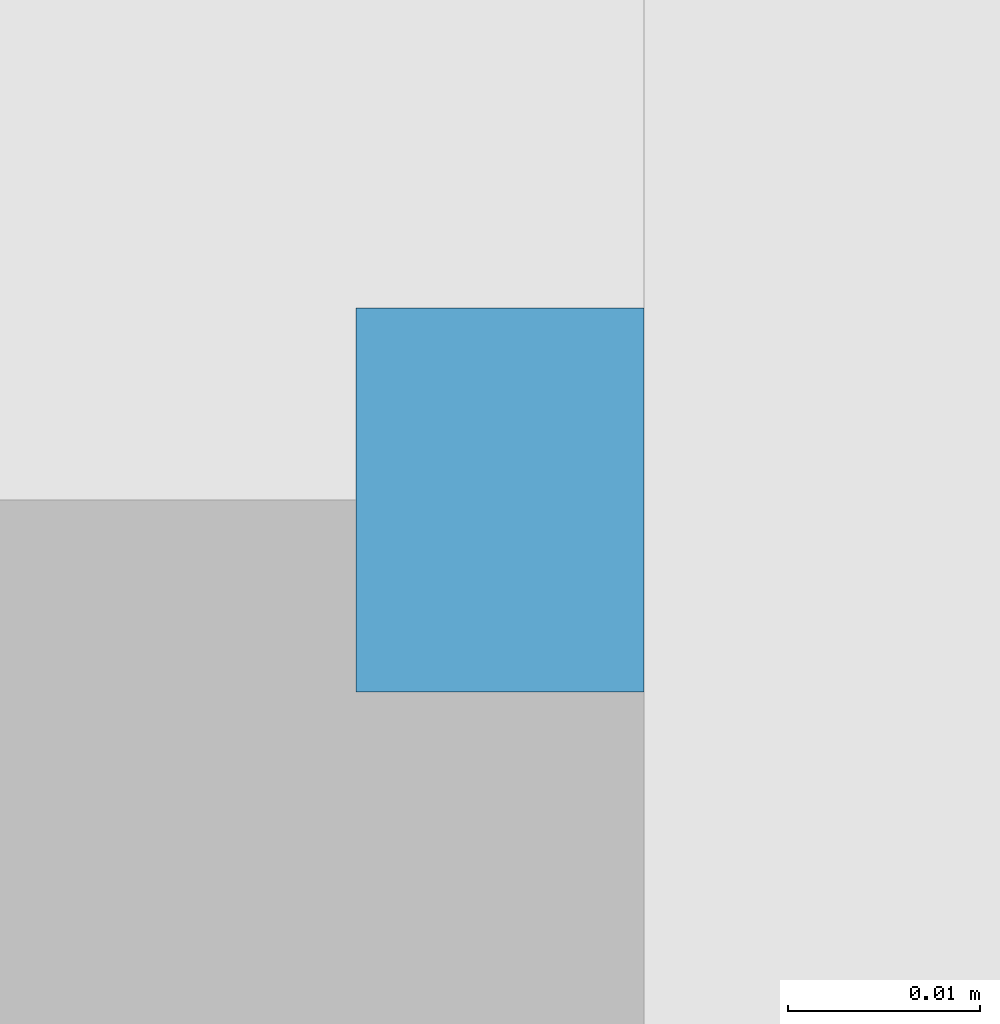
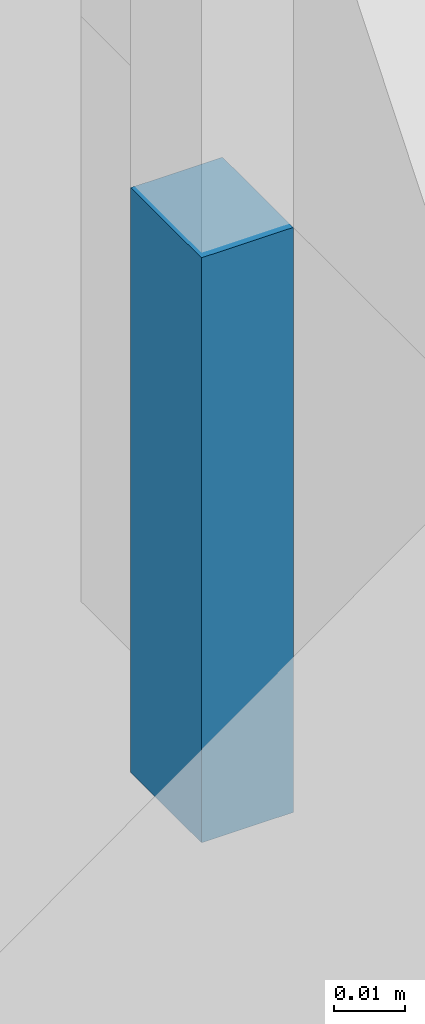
# One storey, part 51 of 117: 1 plate, 1 element without a shape of its own.
"""IFC4 building model written with IfcOpenShell, lengths in metres."""

import ifcopenshell
import ifcopenshell.guid

model = None  # the IFC model being written
_history = None  # IfcOwnerHistory: only IFC2X3 demands one
_inside = {}  # id of a spatial element -> (the spatial element, [elements in it])
_under = {}  # id of a project, library or spatial element -> (it, [spatial elements below it])
_declared = {}  # id of a project -> (the project, [libraries it declares])
_typed = {}  # id of a type object -> (the type object, [elements of that type])
_made_of = {}  # id of a material, layer set ... -> (it, [elements and type objects made of it])


def new_model(schema):
    """Start an empty IFC model of exactly this schema.

    Asked for "IFC4X3", IfcOpenShell would pick the latest addendum, in which some entities
    have other attributes; the version numbers below select the first issue.
    IFC2X3 requires an IfcOwnerHistory on every rooted entity: one is made here for all.
    """
    global model, _history
    if schema == "IFC4X3":
        model = ifcopenshell.file(schema_version=(4, 3, 0, 0))
    else:
        model = ifcopenshell.file(schema=schema)
    _inside.clear()
    _under.clear()
    _declared.clear()
    _typed.clear()
    _made_of.clear()
    _history = None
    if model.schema == "IFC2X3":
        org = make("IfcOrganization", Name="unknown")
        user = make(
            "IfcPersonAndOrganization",
            ThePerson=make("IfcPerson", FamilyName="unknown"),
            TheOrganization=org,
        )
        app = make(
            "IfcApplication",
            ApplicationDeveloper=org,
            Version="unknown",
            ApplicationFullName="unknown",
            ApplicationIdentifier="unknown",
        )
        _history = make(
            "IfcOwnerHistory",
            OwningUser=user,
            OwningApplication=app,
            ChangeAction="ADDED",
            CreationDate=0,
        )
    return model


def make(cls, **values):
    """One entity of the class cls with the attributes given. An attribute that is None is left unset."""
    return model.create_entity(
        cls, **{name: value for name, value in values.items() if value is not None}
    )


def entity(cls, *values):
    """Any entity or typed value of the class cls, its attributes in the order of the schema. None: left unset."""
    e = model.create_entity(cls)
    for i, value in enumerate(values):
        if value is not None:
            e[i] = value
    return e


def rooted(cls, **values):
    """An entity with a GlobalId (a new one), such as an element, a storey or a relation."""
    return make(cls, GlobalId=ifcopenshell.guid.new(), OwnerHistory=_history, **values)


def si_unit(unit_type, name, prefix=None):
    """IfcSIUnit, for example si_unit("LENGTHUNIT", "METRE", prefix="MILLI")."""
    return make("IfcSIUnit", UnitType=unit_type, Prefix=prefix, Name=name)


def converted_unit(unit_type, name, factor, base, dimensions=None, offset=None):
    """IfcConversionBasedUnit, such as the inch: factor (a typed value) times the base unit."""
    return make(
        "IfcConversionBasedUnit"
        if offset is None
        else "IfcConversionBasedUnitWithOffset",
        ConversionOffset=offset,
        Dimensions=None
        if dimensions is None
        else entity("IfcDimensionalExponents", *dimensions),
        UnitType=unit_type,
        Name=name,
        ConversionFactor=make(
            "IfcMeasureWithUnit", ValueComponent=factor, UnitComponent=base
        ),
    )


def derived_unit(unit_type, elements):
    """IfcDerivedUnit: a product of units, each with its exponent."""
    return make(
        "IfcDerivedUnit",
        Elements=[
            make("IfcDerivedUnitElement", Unit=unit, Exponent=power)
            for unit, power in elements
        ],
        UnitType=unit_type,
    )


def assignment(units):
    """IfcUnitAssignment: the units of a project."""
    return None if units is None else make("IfcUnitAssignment", Units=units)


def point(xyz):
    """IfcCartesianPoint."""
    return None if xyz is None else make("IfcCartesianPoint", Coordinates=xyz)


def direction(xyz):
    """IfcDirection."""
    return None if xyz is None else make("IfcDirection", DirectionRatios=xyz)


def frame(location, z_axis=None, x_axis=None):
    """IfcAxis2Placement3D, a coordinate frame: its origin and axes. An axis left out is left unset."""
    return make(
        "IfcAxis2Placement3D",
        Location=point(location),
        Axis=direction(z_axis),
        RefDirection=direction(x_axis),
    )


def origin():
    """The frame at (0, 0, 0) with its axes left unset."""
    return frame((0.0, 0.0, 0.0))


def place(relative_to, where):
    """IfcLocalPlacement: puts the frame where relative to a parent placement (None: the world)."""
    return make(
        "IfcLocalPlacement", PlacementRelTo=relative_to, RelativePlacement=where
    )


def context(
    kind, dimensions, precision=None, world=None, true_north=None, identifier=None
):
    """IfcGeometricRepresentationContext, for example the 3D "Model" context."""
    return make(
        "IfcGeometricRepresentationContext",
        ContextIdentifier=identifier,
        ContextType=kind,
        CoordinateSpaceDimension=dimensions,
        Precision=precision,
        WorldCoordinateSystem=world,
        TrueNorth=true_north,
    )


def subcontext(parent, identifier, kind, view, scale=None):
    """IfcGeometricRepresentationSubContext, for example "Body" below "Model"."""
    return make(
        "IfcGeometricRepresentationSubContext",
        ContextIdentifier=identifier,
        ContextType=kind,
        ParentContext=parent,
        TargetScale=scale,
        TargetView=view,
    )


def project(units=None, contexts=None):
    """IfcProject with its units and contexts."""
    return rooted(
        "IfcProject",
        Name="project",
        RepresentationContexts=contexts,
        UnitsInContext=assignment(units),
    )


def spatial(cls, under=None, at=None, **own):
    """A site, building, storey or space (cls), placed at a placement, below another one or the project."""
    s = rooted(cls, ObjectPlacement=at, **own)
    if under is not None:
        _under.setdefault(under.id(), (under, []))[1].append(s)
    return s


def point_list(points):
    """IfcCartesianPointList2D or 3D."""
    cls = (
        "IfcCartesianPointList2D" if len(points[0]) == 2 else "IfcCartesianPointList3D"
    )
    return make(cls, CoordList=points)


def indexed_curve(points, segments=None, self_intersect=None):
    """IfcIndexedPolyCurve: lines and arcs through numbered points (the first is 1)."""
    return make(
        "IfcIndexedPolyCurve",
        Points=point_list(points),
        Segments=segments,
        SelfIntersect=self_intersect,
    )


def outline(outer, holes=None, kind="AREA"):
    """IfcArbitraryClosedProfileDef: a profile drawn as a closed curve; with holes, ...WithVoids."""
    if holes is None:
        return make("IfcArbitraryClosedProfileDef", ProfileType=kind, OuterCurve=outer)
    return make(
        "IfcArbitraryProfileDefWithVoids",
        ProfileType=kind,
        OuterCurve=outer,
        InnerCurves=holes,
    )


def extrude(swept, where, along, depth):
    """IfcExtrudedAreaSolid: the profile swept, set in the frame where, extruded along a direction by depth."""
    return make(
        "IfcExtrudedAreaSolid",
        SweptArea=swept,
        Position=where,
        ExtrudedDirection=direction(along),
        Depth=depth,
    )


def shape(context_of_items, identifier, shape_type, items):
    """IfcShapeRepresentation: the items that make up one representation, for example the "Body"."""
    return make(
        "IfcShapeRepresentation",
        ContextOfItems=context_of_items,
        RepresentationIdentifier=identifier,
        RepresentationType=shape_type,
        Items=items,
    )


def source(mapping_origin, context_of_items, identifier, shape_type, items):
    """IfcRepresentationMap: a shape defined once, which mapped items show again and again."""
    return make(
        "IfcRepresentationMap",
        MappingOrigin=mapping_origin,
        MappedRepresentation=shape(context_of_items, identifier, shape_type, items),
    )


def transform(
    local_origin,
    x_axis=None,
    y_axis=None,
    z_axis=None,
    scale=None,
    scale2=None,
    scale3=None,
    uniform=True,
):
    """IfcCartesianTransformationOperator3D, or its non-uniform kind. x_axis, y_axis, z_axis: its Axis1, 2, 3."""
    if uniform:
        return make(
            "IfcCartesianTransformationOperator3D",
            Axis1=direction(x_axis),
            Axis2=direction(y_axis),
            LocalOrigin=point(local_origin),
            Scale=scale,
            Axis3=direction(z_axis),
        )
    return make(
        "IfcCartesianTransformationOperator3DnonUniform",
        Axis1=direction(x_axis),
        Axis2=direction(y_axis),
        LocalOrigin=point(local_origin),
        Scale=scale,
        Axis3=direction(z_axis),
        Scale2=scale2,
        Scale3=scale3,
    )


def mapped(mapping_source, mapping_target):
    """IfcMappedItem: shows the shape of a source again, moved by a transform."""
    return make(
        "IfcMappedItem", MappingSource=mapping_source, MappingTarget=mapping_target
    )


def material(Name=None, Category=None):
    """IfcMaterial."""
    return make("IfcMaterial", Name=Name, Category=Category)


def made_of(thing, what):
    """Note that an element or type object is made of a material, layer set ...; save() writes the relation."""
    if what is not None:
        _made_of.setdefault(what.id(), (what, []))[1].append(thing)
    return thing


def type_object(cls, material=None, **own):
    """A type object (cls), such as IfcWallType, which elements share."""
    return made_of(rooted(cls, **own), material)


def type_shapes(of_type, sources):
    """Give a type object the sources (RepresentationMaps) that its elements show as mapped items."""
    of_type.RepresentationMaps = sources


def element(
    cls,
    number,
    at=None,
    inside=None,
    cuts=None,
    type_object=None,
    material=None,
    context=None,
    identifier="Body",
    shape_type=None,
    held_by="IfcProductDefinitionShape",
    body=None,
    shapes=None,
    **own,
):
    """One element of the class cls, such as IfcWall. Its Tag is "e" and its number.

    at: its placement. inside: the storey or other place that contains it. cuts: it is an
    opening in that element (IfcRelVoidsElement). A single representation is given by context,
    identifier, shape_type and body (its items); several are given by shapes. held_by: the class
    of the entity that holds the representations. save() writes the other relations.
    """
    e = rooted(cls, Tag="e%d" % number, ObjectPlacement=at, **own)
    if body is not None:
        shapes = [shape(context, identifier, shape_type, body)]
    if shapes is not None:
        e.Representation = make(held_by, Representations=shapes)
    if inside is not None:
        _inside.setdefault(inside.id(), (inside, []))[1].append(e)
    if cuts is not None:
        rooted(
            "IfcRelVoidsElement", RelatingBuildingElement=cuts, RelatedOpeningElement=e
        )
    if type_object is not None:
        _typed.setdefault(type_object.id(), (type_object, []))[1].append(e)
    return made_of(e, material)


def aggregate(whole, parts):
    """IfcRelAggregates: a whole, such as a stair, and the parts it consists of."""
    return rooted("IfcRelAggregates", RelatingObject=whole, RelatedObjects=parts)


def save(model, path):
    """Write the relations noted so far, then the file.

    IfcRelAggregates (storeys below a building ...), IfcRelContainedInSpatialStructure (elements
    in a storey), IfcRelDefinesByType, IfcRelAssociatesMaterial and IfcRelDeclares: one each for
    every whole, place, type object, material and project.
    """
    for whole, parts in _under.values():
        aggregate(whole, parts)
    for where, things in _inside.values():
        rooted(
            "IfcRelContainedInSpatialStructure",
            RelatedElements=things,
            RelatingStructure=where,
        )
    for kind, things in _typed.values():
        rooted("IfcRelDefinesByType", RelatedObjects=things, RelatingType=kind)
    for what, things in _made_of.values():
        rooted("IfcRelAssociatesMaterial", RelatedObjects=things, RelatingMaterial=what)
    for by, libraries in _declared.values():
        rooted("IfcRelDeclares", RelatingContext=by, RelatedDefinitions=libraries)
    model.write(path)


model = new_model("IFC4")

# Units and contexts
model_context = context("Model", 3, precision=1e-05, world=origin(), true_north=direction((6.123031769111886e-17, 1.0)))
body_context = subcontext(model_context, "Body", "Model", "MODEL_VIEW")
ifc_project = project(units=[si_unit("LENGTHUNIT", "METRE"), si_unit("AREAUNIT", "SQUARE_METRE"), si_unit("VOLUMEUNIT", "CUBIC_METRE"), converted_unit("PLANEANGLEUNIT", "DEGREE", entity("IfcRatioMeasure", 0.017453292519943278), si_unit("PLANEANGLEUNIT", "RADIAN"), dimensions=[0, 0, 0, 0, 0, 0, 0]), si_unit("MASSUNIT", "GRAM", prefix="KILO"), derived_unit("MASSDENSITYUNIT", [(si_unit("MASSUNIT", "GRAM", prefix="KILO"), 1), (si_unit("LENGTHUNIT", "METRE"), -3)]), derived_unit("MOMENTOFINERTIAUNIT", [(si_unit("LENGTHUNIT", "METRE"), 4)]), si_unit("TIMEUNIT", "SECOND"), si_unit("FREQUENCYUNIT", "HERTZ"), si_unit("THERMODYNAMICTEMPERATUREUNIT", "DEGREE_CELSIUS"), derived_unit("THERMALTRANSMITTANCEUNIT", [(si_unit("MASSUNIT", "GRAM", prefix="KILO"), 1), (si_unit("THERMODYNAMICTEMPERATUREUNIT", "KELVIN"), -1), (si_unit("TIMEUNIT", "SECOND"), -3)]), derived_unit("VOLUMETRICFLOWRATEUNIT", [(si_unit("LENGTHUNIT", "METRE"), 3), (si_unit("TIMEUNIT", "SECOND"), -1)]), derived_unit("MASSFLOWRATEUNIT", [(si_unit("MASSUNIT", "GRAM", prefix="KILO"), 1), (si_unit("TIMEUNIT", "SECOND"), -1)]), derived_unit("ROTATIONALFREQUENCYUNIT", [(si_unit("TIMEUNIT", "SECOND"), -1)]), si_unit("ELECTRICCURRENTUNIT", "AMPERE"), si_unit("ELECTRICVOLTAGEUNIT", "VOLT"), si_unit("POWERUNIT", "WATT"), si_unit("FORCEUNIT", "NEWTON", prefix="KILO"), si_unit("ILLUMINANCEUNIT", "LUX"), si_unit("LUMINOUSFLUXUNIT", "LUMEN"), si_unit("LUMINOUSINTENSITYUNIT", "CANDELA"), derived_unit("USERDEFINED", [(si_unit("MASSUNIT", "GRAM", prefix="KILO"), -1), (si_unit("LENGTHUNIT", "METRE"), -2), (si_unit("TIMEUNIT", "SECOND"), 3), (si_unit("LUMINOUSFLUXUNIT", "LUMEN"), 1)]), derived_unit("SOUNDPOWERUNIT", [(si_unit("MASSUNIT", "GRAM", prefix="KILO"), 1), (si_unit("LENGTHUNIT", "METRE"), 2), (si_unit("TIMEUNIT", "SECOND"), -3)]), derived_unit("SOUNDPRESSUREUNIT", [(si_unit("MASSUNIT", "GRAM", prefix="KILO"), 1), (si_unit("LENGTHUNIT", "METRE"), -1), (si_unit("TIMEUNIT", "SECOND"), -2)]), derived_unit("LINEARVELOCITYUNIT", [(si_unit("LENGTHUNIT", "METRE"), 1), (si_unit("TIMEUNIT", "SECOND"), -1)]), si_unit("PRESSUREUNIT", "PASCAL"), derived_unit("USERDEFINED", [(si_unit("LENGTHUNIT", "METRE"), -2), (si_unit("MASSUNIT", "GRAM", prefix="KILO"), 1), (si_unit("TIMEUNIT", "SECOND"), -2)]), derived_unit("LINEARFORCEUNIT", [(si_unit("MASSUNIT", "GRAM", prefix="KILO"), 1), (si_unit("LENGTHUNIT", "METRE"), 1), (si_unit("TIMEUNIT", "SECOND"), -2), (si_unit("LENGTHUNIT", "METRE"), -1)]), derived_unit("PLANARFORCEUNIT", [(si_unit("MASSUNIT", "GRAM", prefix="KILO"), 1), (si_unit("LENGTHUNIT", "METRE"), 1), (si_unit("TIMEUNIT", "SECOND"), -2), (si_unit("LENGTHUNIT", "METRE"), -2)])], contexts=[model_context])

# Site, building, storey
site_placement = place(None, origin())
site = spatial("IfcSite", under=ifc_project, at=site_placement, Name="Superficie", CompositionType="ELEMENT")
building_placement = place(site_placement, origin())
building = spatial("IfcBuilding", under=site, at=building_placement, CompositionType="ELEMENT")
storey_placement = place(building_placement, origin())
storey = spatial("IfcBuildingStorey", under=building, at=storey_placement, Name="Nivel 0", CompositionType="ELEMENT", Elevation=0.0)

# Curtain wall, plate
curtain_wall_type = type_object("IfcCurtainWallType", Name="Muro cortina:Muro cortina - simple", PredefinedType="NOTDEFINED")
curtain_wall_placement = place(storey_placement, origin())
curtain_wall = element("IfcCurtainWall", 1, at=curtain_wall_placement, inside=storey, type_object=curtain_wall_type, Name="Muro cortina:Muro cortina - simple", ObjectType="Muro cortina:Muro cortina - simple", PredefinedType="NOTDEFINED")
ifc_material = material(Name="Cristal", Category="Vidrio")
plate_type = type_object("IfcPlateType", Name="Panel de sistema:Acristalado", PredefinedType="CURTAIN_PANEL", material=ifc_material)
shared_shape = source(origin(), body_context, "Body", "SweptSolid", [
    extrude(outline(indexed_curve([(-0.01, -0.00749999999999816), (0.01, -0.00749999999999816), (0.01, 0.00749999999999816), (-0.01, 0.00749999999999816), (-0.01, -0.00749999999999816)], self_intersect=False)), frame((0.0, 0.0, 0.0), z_axis=(0.0, 0.0, 1.0), x_axis=(0.0, 1.0, 0.0)), (0.0, 0.0, 1.0), 0.10097316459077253),
])
type_shapes(plate_type, [shared_shape])
plate_placement = place(curtain_wall_placement, frame((0.9290520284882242, 12.654548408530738, -0.1874502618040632), z_axis=(0.0, 0.0, 1.0), x_axis=(-1.0, 0.0, 0.0)))
plate = element("IfcPlate", 2, at=plate_placement, type_object=plate_type, material=ifc_material, Name="Panel de sistema:Acristalado", ObjectType="Panel de sistema:Acristalado", PredefinedType="CURTAIN_PANEL", context=body_context, shape_type="MappedRepresentation", body=[
    mapped(shared_shape, transform((0.0, 0.0, 0.0), scale=1.0)),
])
aggregate(curtain_wall, [plate])

save(model, "model.ifc")
